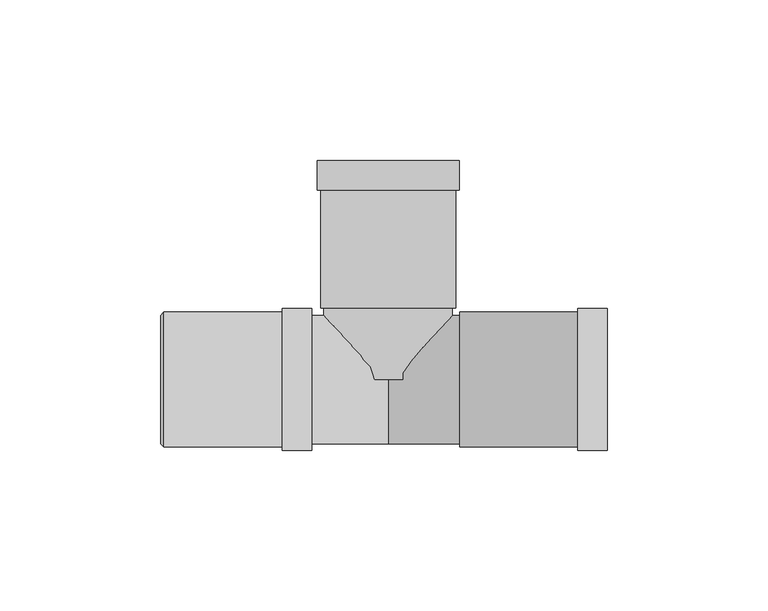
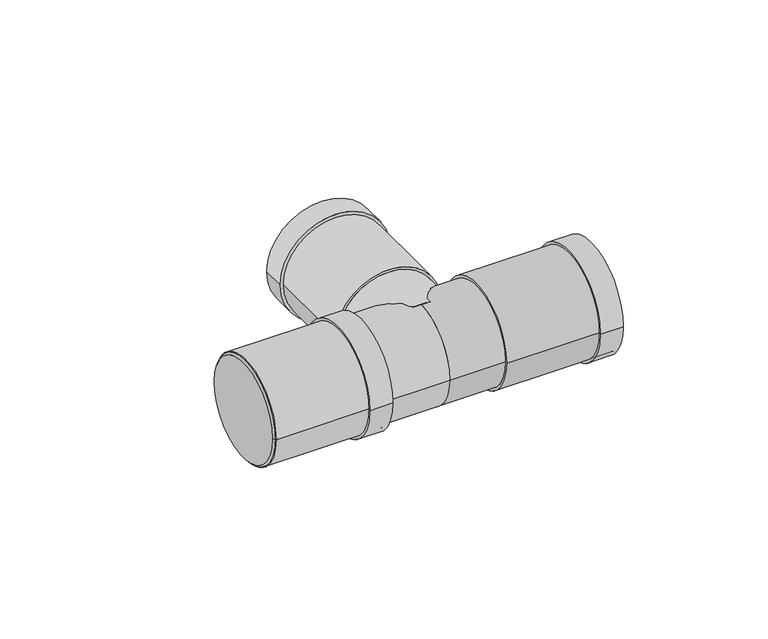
"""IFC4 building model written with IfcOpenShell, lengths in millimetres: pipe fitting geometry, Superdrain HTEA Branch : Superdrain HTEA Branch."""

from ifc_helpers import new_model, si_unit, point, frame, origin, origin_2d, place, context, project, spatial, polyline, circle_curve, trimmed, segment, composite_curve, outline, extrude, source, transform, mapped, element, save
from ifc_brep_helpers import plane_surface, revolved_surface, advanced_brep


def pipe_fitting_bf3cede0(model_context):
    return source(origin(), model_context, "Body", "SolidModel", [
        extrude(outline(composite_curve([segment(trimmed(circle_curve(origin_2d(), 21.0), [point((21.0, 0.0))], [point((-21.0, 0.0))], False, "CARTESIAN"), True, "CONTINUOUS"), segment(trimmed(circle_curve(origin_2d(), 21.0), [point((-21.0, 0.0))], [point((21.0, 0.0))], False, "CARTESIAN"), True, "CONTINUOUS")], self_intersect=False), holes=[composite_curve([segment(trimmed(circle_curve(origin_2d(), 20.0), [point((20.0, 0.0))], [point((-20.0, 0.0))], True, "CARTESIAN"), True, "CONTINUOUS"), segment(trimmed(circle_curve(origin_2d(), 20.0), [point((-20.0, 0.0))], [point((20.0, 0.0))], True, "CARTESIAN"), True, "CONTINUOUS")], self_intersect=False)]), frame((-69.8, 0.0, 0.0), z_axis=(1.0, 0.0, 0.0), x_axis=(0.0, 1.0, 0.0)), (0.0, 0.0, 1.0), 46.0),
        extrude(outline(composite_curve([segment(trimmed(circle_curve(origin_2d(), 22.05), [point((22.05, 0.0))], [point((-22.05, 0.0))], False, "CARTESIAN"), True, "CONTINUOUS"), segment(trimmed(circle_curve(origin_2d(), 22.05), [point((-22.05, 0.0))], [point((22.05, 0.0))], False, "CARTESIAN"), True, "CONTINUOUS")], self_intersect=False), holes=[composite_curve([segment(trimmed(circle_curve(origin_2d(), 20.0), [point((20.0, 0.0))], [point((-20.0, 0.0))], True, "CARTESIAN"), True, "CONTINUOUS"), segment(trimmed(circle_curve(origin_2d(), 20.0), [point((-20.0, 0.0))], [point((20.0, 0.0))], True, "CARTESIAN"), True, "CONTINUOUS")], self_intersect=False)]), frame((-33.0, 0.0, 0.0), z_axis=(1.0, 0.0, 0.0), x_axis=(0.0, 1.0, 0.0)), (0.0, 0.0, 1.0), 9.2),
        advanced_brep(
        [(-70.8, 20.0, 0.0), (-70.8, -20.0, 0.0), (-69.8, 21.0, 0.0), (-69.8, -21.0, 0.0)],
        [
            (0, 1, circle_curve(frame((-70.8, 0.0, 0.0), z_axis=(-1.0, 0.0, 0.0), x_axis=(0.0, 1.0, 0.0)), 20.0)),
            (1, 0, circle_curve(frame((-70.8, 0.0, 0.0), z_axis=(-1.0, 0.0, 0.0), x_axis=(0.0, -1.0, 0.0)), 20.0)),
            (2, 3, circle_curve(frame((-69.8, 0.0, 0.0), z_axis=(1.0, 0.0, 0.0), x_axis=(0.0, -1.0, 0.0)), 21.0)),
            (3, 2, circle_curve(frame((-69.8, 0.0, 0.0), z_axis=(1.0, 0.0, 0.0), x_axis=(0.0, 1.0, 0.0)), 21.0)),
            (3, 1),
            (0, 2),
        ],
        [
            plane_surface(frame((-70.8, 0.0, 0.0), z_axis=(-1.0, 0.0, 0.0), x_axis=(0.0, 0.0, -1.0))),
            plane_surface(frame((-69.8, 0.0, 0.0), z_axis=(1.0, 0.0, 0.0), x_axis=(0.0, 0.0, -1.0))),
            revolved_surface(polyline([(-70.8, 20.0, 0.0), (-69.8, 21.0, 0.0)]), (-90.8, 0.0, 0.0), (1.0, 0.0, 0.0)),
            revolved_surface(polyline([(-70.8, -20.0, 0.0), (-69.8, -21.0, 0.0)]), (-90.8, 0.0, 0.0), (1.0, 0.0, 0.0)),
        ],
        [
            (0, [[1, 2]]),
            (1, [[3, 4]]),
            (2, [[-4, 5, -1, 6]]),
            (3, [[-3, -6, -2, -5]]),
        ],
    ),
        extrude(outline(composite_curve([segment(trimmed(circle_curve(origin_2d(), 21.0), [point((-21.0, 0.0))], [point((21.0, 0.0))], False, "CARTESIAN"), True, "CONTINUOUS"), segment(trimmed(circle_curve(origin_2d(), 21.0), [point((21.0, 0.0))], [point((-21.0, 0.0))], False, "CARTESIAN"), True, "CONTINUOUS")], self_intersect=False), holes=[composite_curve([segment(trimmed(circle_curve(origin_2d(), 20.0), [point((20.0, 0.0))], [point((-20.0, 0.0))], True, "CARTESIAN"), True, "CONTINUOUS"), segment(trimmed(circle_curve(origin_2d(), 20.0), [point((-20.0, 0.0))], [point((20.0, 0.0))], True, "CARTESIAN"), True, "CONTINUOUS")], self_intersect=False)]), frame((22.2, 0.0, 0.0), z_axis=(1.0, 0.0, 0.0), x_axis=(0.0, 1.0, 0.0)), (0.0, 0.0, 1.0), 46.0),
        extrude(outline(composite_curve([segment(trimmed(circle_curve(origin_2d(), 22.05), [point((22.05, 0.0))], [point((-22.05, 0.0))], False, "CARTESIAN"), True, "CONTINUOUS"), segment(trimmed(circle_curve(origin_2d(), 22.05), [point((-22.05, 0.0))], [point((22.05, 0.0))], False, "CARTESIAN"), True, "CONTINUOUS")], self_intersect=False), holes=[composite_curve([segment(trimmed(circle_curve(origin_2d(), 20.0), [point((20.0, 0.0))], [point((-20.0, 0.0))], True, "CARTESIAN"), True, "CONTINUOUS"), segment(trimmed(circle_curve(origin_2d(), 20.0), [point((-20.0, 0.0))], [point((20.0, 0.0))], True, "CARTESIAN"), True, "CONTINUOUS")], self_intersect=False)]), frame((59.0, 0.0, 0.0), z_axis=(1.0, 0.0, 0.0), x_axis=(0.0, 1.0, 0.0)), (0.0, 0.0, 1.0), 9.2),
        extrude(outline(composite_curve([segment(trimmed(circle_curve(origin_2d(), 20.0), [point((0.0, 20.0))], [point((0.0, -20.0))], False, "CARTESIAN"), True, "CONTINUOUS"), segment(trimmed(circle_curve(origin_2d(), 20.0), [point((0.0, -20.0))], [point((0.0, 20.0))], False, "CARTESIAN"), True, "CONTINUOUS")], self_intersect=False)), frame((0.0, 0.0, 0.0), z_axis=(0.0, 1.0, 0.0), x_axis=(0.0, 0.0, 1.0)), (0.0, 0.0, 1.0), 22.2),
        extrude(outline(composite_curve([segment(trimmed(circle_curve(origin_2d(), 20.0), [point((20.0, 0.0))], [point((-20.0, 0.0))], False, "CARTESIAN"), True, "CONTINUOUS"), segment(trimmed(circle_curve(origin_2d(), 20.0), [point((-20.0, 0.0))], [point((20.0, 0.0))], False, "CARTESIAN"), True, "CONTINUOUS")], self_intersect=False)), frame((-69.8, 0.0, 0.0), z_axis=(1.0, 0.0, 0.0), x_axis=(0.0, 1.0, 0.0)), (0.0, 0.0, 1.0), 69.8),
        extrude(outline(composite_curve([segment(trimmed(circle_curve(origin_2d(), 20.0), [point((-20.0, 0.0))], [point((20.0, 0.0))], False, "CARTESIAN"), True, "CONTINUOUS"), segment(trimmed(circle_curve(origin_2d(), 20.0), [point((20.0, 0.0))], [point((-20.0, 0.0))], False, "CARTESIAN"), True, "CONTINUOUS")], self_intersect=False)), frame((0.0, 0.0, 0.0), z_axis=(1.0, 0.0, 0.0), x_axis=(0.0, 1.0, 0.0)), (0.0, 0.0, 1.0), 22.2),
        extrude(outline(composite_curve([segment(trimmed(circle_curve(origin_2d(), 22.05), [point((0.0, 22.05))], [point((0.0, -22.05))], False, "CARTESIAN"), True, "CONTINUOUS"), segment(trimmed(circle_curve(origin_2d(), 22.05), [point((0.0, -22.05))], [point((0.0, 22.05))], False, "CARTESIAN"), True, "CONTINUOUS")], self_intersect=False), holes=[composite_curve([segment(trimmed(circle_curve(origin_2d(), 20.0), [point((0.0, 20.0))], [point((0.0, -20.0))], True, "CARTESIAN"), True, "CONTINUOUS"), segment(trimmed(circle_curve(origin_2d(), 20.0), [point((0.0, -20.0))], [point((0.0, 20.0))], True, "CARTESIAN"), True, "CONTINUOUS")], self_intersect=False)]), frame((0.0, 59.0, 0.0), z_axis=(0.0, 1.0, 0.0), x_axis=(0.0, 0.0, 1.0)), (0.0, 0.0, 1.0), 9.2),
        extrude(outline(composite_curve([segment(trimmed(circle_curve(origin_2d(), 21.0), [point((0.0, 21.0))], [point((0.0, -21.0))], False, "CARTESIAN"), True, "CONTINUOUS"), segment(trimmed(circle_curve(origin_2d(), 21.0), [point((0.0, -21.0))], [point((0.0, 21.0))], False, "CARTESIAN"), True, "CONTINUOUS")], self_intersect=False), holes=[composite_curve([segment(trimmed(circle_curve(origin_2d(), 20.0), [point((0.0, 20.0))], [point((0.0, -20.0))], True, "CARTESIAN"), True, "CONTINUOUS"), segment(trimmed(circle_curve(origin_2d(), 20.0), [point((0.0, -20.0))], [point((0.0, 20.0))], True, "CARTESIAN"), True, "CONTINUOUS")], self_intersect=False)]), frame((0.0, 22.2, 0.0), z_axis=(0.0, 1.0, 0.0), x_axis=(0.0, 0.0, 1.0)), (0.0, 0.0, 1.0), 46.0),
    ])


if __name__ == "__main__":
    model = new_model("IFC4")
    model_context = context("Model", 3, world=origin())
    ifc_project = project(units=[si_unit("LENGTHUNIT", "METRE", prefix="MILLI")], contexts=[model_context])
    site = spatial("IfcSite", under=ifc_project)
    building = spatial("IfcBuilding", under=site)
    placement = place(None, origin())
    pipe_fitting_shape = pipe_fitting_bf3cede0(model_context)
    element("IfcPipeFitting", 1, ObjectType="Superdrain HTEA Branch : Superdrain HTEA Branch", at=placement, inside=building, context=model_context, shape_type="MappedRepresentation", body=[
        mapped(pipe_fitting_shape, transform((0.0, 0.0, 0.0), x_axis=(1.0, 0.0, 0.0), y_axis=(0.0, 1.0, 0.0), z_axis=(0.0, 0.0, 1.0))),
    ])
    save(model, "model.ifc")
